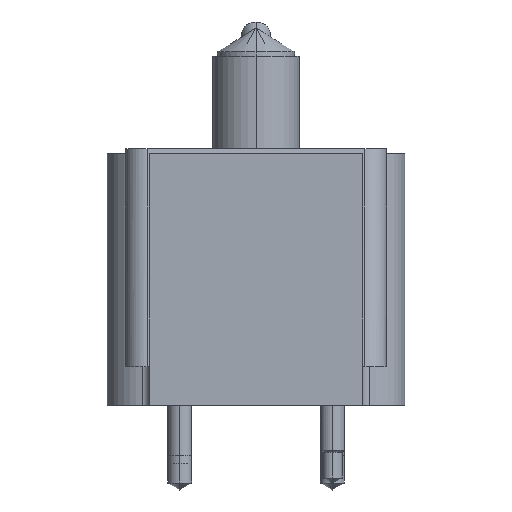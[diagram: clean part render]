
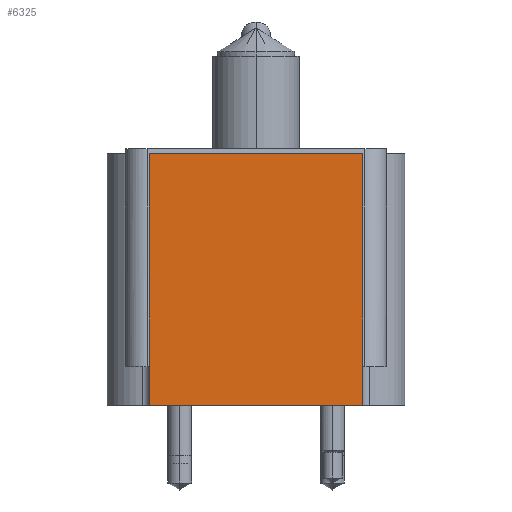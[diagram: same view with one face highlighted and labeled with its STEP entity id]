
A CAD part, left-side view. The second image highlights one B-rep face of the part: STEP entity #6325.
In plain terms, the highlighted planar face has unit normal (-1, 0, 0).
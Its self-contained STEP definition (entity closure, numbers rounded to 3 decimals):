
#6151=CARTESIAN_POINT('',(-84.201,34.988,82.55));
#6152=VERTEX_POINT('',#6151);
#6159=CARTESIAN_POINT('',(-84.201,-34.988,82.55));
#6160=VERTEX_POINT('',#6159);
#6161=CARTESIAN_POINT('',(-84.201,0.0,82.55));
#6162=DIRECTION('',(0.0,1.0,0.0));
#6163=VECTOR('',#6162,1.0);
#6164=LINE('',#6161,#6163);
#6165=EDGE_CURVE('',#6160,#6152,#6164,.T.);
#6295=CARTESIAN_POINT('',(-84.201,34.988,0.0));
#6296=VERTEX_POINT('',#6295);
#6297=CARTESIAN_POINT('',(-84.201,34.988,0.0));
#6298=DIRECTION('',(0.0,0.0,1.0));
#6299=VECTOR('',#6298,1.0);
#6300=LINE('',#6297,#6299);
#6301=EDGE_CURVE('',#6296,#6152,#6300,.T.);
#6302=ORIENTED_EDGE('',*,*,#6301,.F.);
#6303=CARTESIAN_POINT('',(-84.201,-34.988,0.0));
#6304=VERTEX_POINT('',#6303);
#6305=CARTESIAN_POINT('',(-84.201,0.0,0.0));
#6306=DIRECTION('',(0.0,-1.0,0.0));
#6307=VECTOR('',#6306,1.0);
#6308=LINE('',#6305,#6307);
#6309=EDGE_CURVE('',#6296,#6304,#6308,.T.);
#6310=ORIENTED_EDGE('',*,*,#6309,.T.);
#6311=CARTESIAN_POINT('',(-84.201,-34.988,0.0));
#6312=DIRECTION('',(0.0,0.0,-1.0));
#6313=VECTOR('',#6312,1.0);
#6314=LINE('',#6311,#6313);
#6315=EDGE_CURVE('',#6160,#6304,#6314,.T.);
#6316=ORIENTED_EDGE('',*,*,#6315,.F.);
#6317=ORIENTED_EDGE('',*,*,#6165,.T.);
#6318=EDGE_LOOP('',(#6302,#6310,#6316,#6317));
#6319=FACE_OUTER_BOUND('',#6318,.T.);
#6320=CARTESIAN_POINT('',(-84.201,0.0,0.0));
#6321=DIRECTION('',(-1.0,0.0,-0.0));
#6322=DIRECTION('',(-0.0,0.0,1.0));
#6323=AXIS2_PLACEMENT_3D('',#6320,#6321,#6322);
#6324=PLANE('',#6323);
#6325=ADVANCED_FACE('',(#6319),#6324,.T.);
